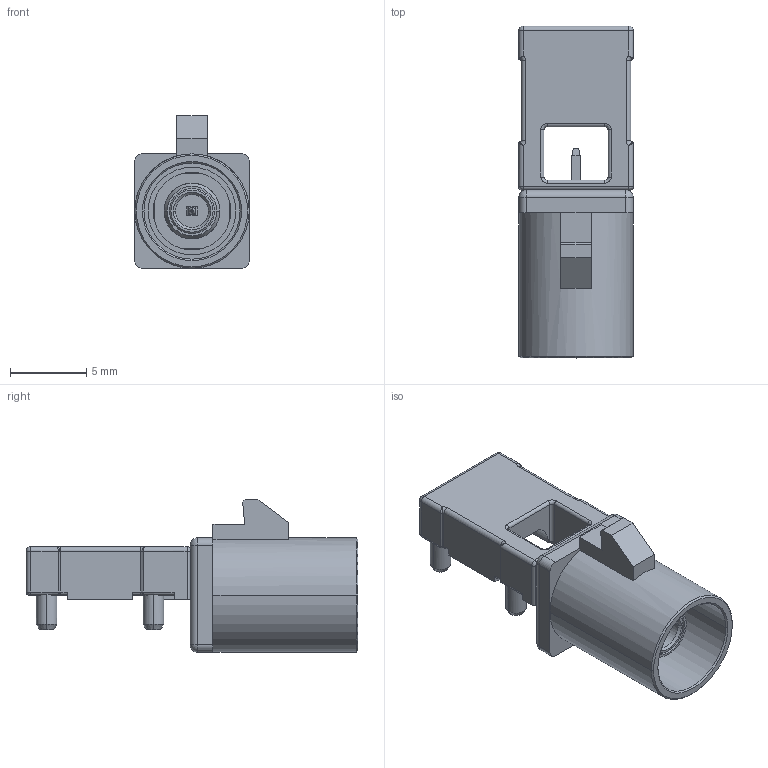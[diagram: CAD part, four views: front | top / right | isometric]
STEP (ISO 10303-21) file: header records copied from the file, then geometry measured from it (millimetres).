
FILE_DESCRIPTION((''),'2;1');
FILE_NAME('CRC5001-6601F','2022-03-12T23:54:38',('smknikai'),(''),'CREO PARAMETRIC BY PTC INC, 2020454','CREO PARAMETRIC BY PTC INC, 2020454','');
FILE_SCHEMA(('AP242_MANAGED_MODEL_BASED_3D_ENGINEERING_MIM_LF { 1 0 10303 442 1 1 4 }'));
Length unit declared in the file: millimetre
Products named in the file (1): CRC5001-6601F
Bounding box: 7.5 x 21.75 x 10 mm (x, y, z)
Volume: 508.4 mm3; surface area: 1011.3 mm2
Topology: 1 solids, 1 shells, 328 faces, 836 edges, 501 vertices
Faces by surface type: plane 164, cylinder 96, cone 38, torus 12, bspline 12, sphere 6
Entity records: 13671 total; most frequent: CARTESIAN_POINT 3139, ORIENTED_EDGE 1672, DIRECTION 1587, EDGE_CURVE 836, AXIS2_PLACEMENT_3D 536, VECTOR 515, LINE 515, VERTEX_POINT 501
